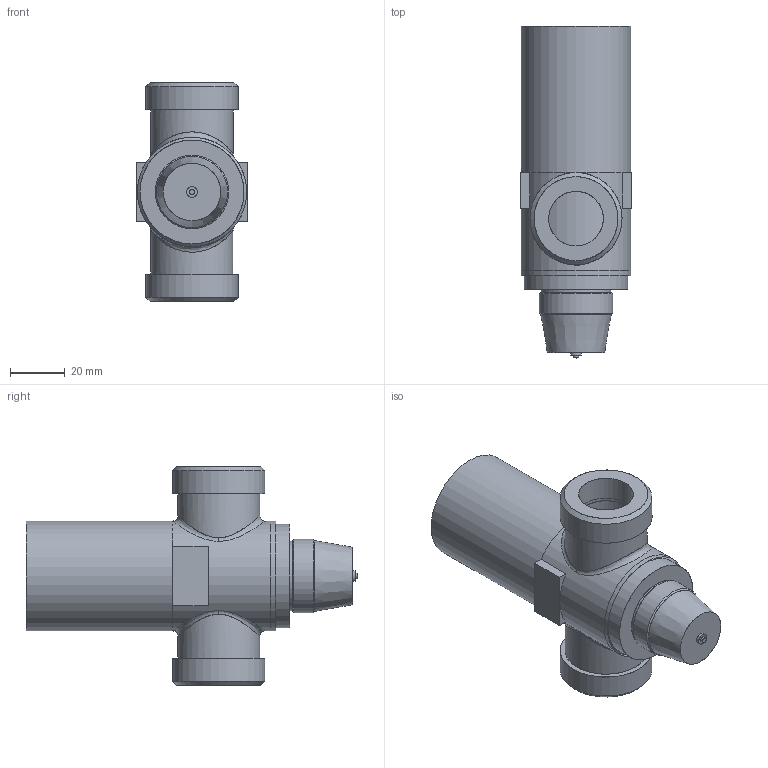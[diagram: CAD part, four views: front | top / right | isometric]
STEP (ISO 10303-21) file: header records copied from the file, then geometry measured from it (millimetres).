
FILE_DESCRIPTION(/* description */ (''),/* implementation_level */ '2;1');
FILE_NAME(/* name */ 'VXP45_DN20.stp',/* time_stamp */ '2013-10-01T15:15:33+02:00',/* author */ (''),/* organization */ (''),/* preprocessor_version */ 'ST-DEVELOPER v11',/* originating_system */ 'SIEMENS UGS NX 6.0',/* authorisation */ '');
FILE_SCHEMA (('AUTOMOTIVE_DESIGN { 1 0 10303 214 1 1 1 1 }'));
Length unit declared in the file: millimetre
Products named in the file (1): model3
Bounding box: 40.27 x 121.38 x 80 mm (x, y, z)
Surface area: 38277.1 mm2 (no closed solid volume)
Topology: 0 solids, 62 shells, 62 faces, 353 edges, 353 vertices
Faces by surface type: plane 30, cylinder 17, cone 7, bspline 6, torus 2
Full cylindrical faces by diameter (mm): 2 x1, 4 x1, 20 x5, 25.5 x1, 26.9 x1, 30 x3, 33.7 x3, 38 x1, 40 x1
Entity records: 5913 total; most frequent: CARTESIAN_POINT 3191, DIRECTION 310, ORIENTED_EDGE 298, VERTEX_POINT 298, EDGE_CURVE 298, B_SPLINE_CURVE_WITH_KNOTS 205, AXIS2_PLACEMENT_3D 133, EDGE_LOOP 97
